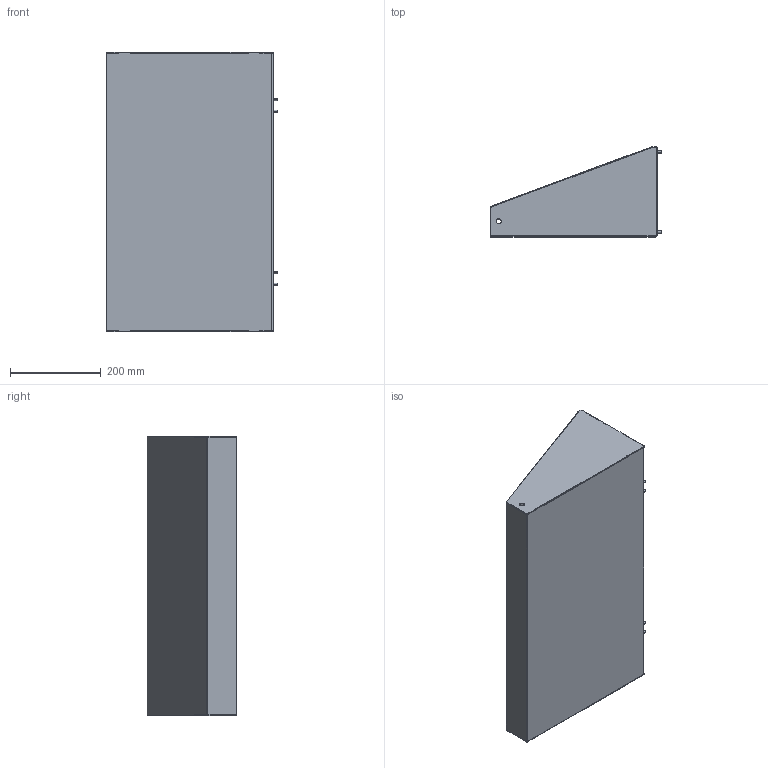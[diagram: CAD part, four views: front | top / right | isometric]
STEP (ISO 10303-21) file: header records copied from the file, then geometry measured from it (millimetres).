
FILE_DESCRIPTION((''),'2;1');
FILE_NAME('SCE-WSCC_ASM','2018-04-24T09:38:23',('johnh'),('SAGINAW CONTROL & ENGINEERING'),'CREO PARAMETRIC BY PTC INC, 2017260','CREO PARAMETRIC BY PTC INC, 2017260','');
FILE_SCHEMA(('AUTOMOTIVE_DESIGN { 1 0 10303 214 1 1 1 1 }'));
Length unit declared in the file: inch
Products named in the file (6): WORKSTATION-CC-BODY; FH-032-8ZI_PEM_STUD_100063; WORKSTATION-CC-BODY_ASM; WORKSTATION-CC-SLOPE; WORKSTATION-CC-SIDE; SCE-WSCC_ASM
Assembly tree (13 placements, depth 3):
  SCE-WSCC_ASM
    WORKSTATION-CC-BODY_ASM
      WORKSTATION-CC-BODY
      FH-032-8ZI_PEM_STUD_100063  x8
    WORKSTATION-CC-SLOPE
    WORKSTATION-CC-SIDE  x2
Bounding box: 378.76 x 198.12 x 615.95 mm (x, y, z)
Volume: 1233205.1 mm3; surface area: 1261551.5 mm2
Topology: 12 solids, 12 shells, 304 faces, 776 edges, 504 vertices
Faces by surface type: plane 200, cylinder 88, torus 16
Entity records: 7957 total; most frequent: CARTESIAN_POINT 1220, DIRECTION 1168, ORIENTED_EDGE 1160, EDGE_CURVE 580, VECTOR 470, LINE 470, VERTEX_POINT 378, AXIS2_PLACEMENT_3D 349
